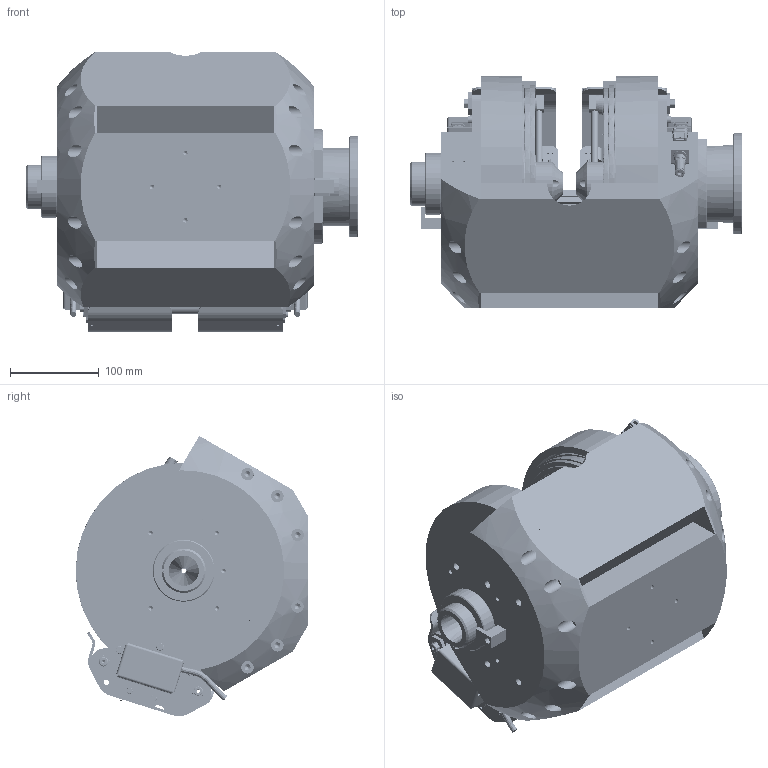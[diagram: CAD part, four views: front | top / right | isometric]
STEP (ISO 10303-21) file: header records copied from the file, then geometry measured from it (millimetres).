
FILE_DESCRIPTION (( 'STEP AP203' ), '1' );
FILE_NAME ('Z2 TUW 1004 000-1T MAGNET V2 opposé.STEP', '2015-10-13T11:58:53', ( 'heyman' ), ( '' ), 'SwSTEP 2.0', 'SolidWorks 2015', '' );
FILE_SCHEMA (( 'CONFIG_CONTROL_DESIGN' ));
Length unit declared in the file: millimetre
Products named in the file (76): boulon; ELMG 02 051 COIL v2 opposé 2_2-2; ELMG 02 053-SPACER; ECROU H_ECROU HM 10; Z2 TUW 1004 000-1T MAGNET V2 opposé; TUW 1004 015-CONTROL PART; ELMG 02 051-coil opposé 2_1; ELMG 02 060-Top Connection Pipe Assy; ELMG 02 065 capot LEFT; ELMG 02 060-Nipple_2; ELMG 02 072 CAPOT RIGHT; ELMG 02 051 COIL v2 opposé 2_3; 99-0402-10-02[7971]; z_Screw_FHc_SCREW FHc M3x5; z_Screw_H_SCREW H M10x20-20; ELMG 02 055-MANIFOLD HOLDER LEFT; Cosse Cu-10; ECROU H_ECROU HM 6; MANCHON 1; ELMG 02 069-Line Bar; ELMG 02 066 CURRENT BEAM RIGHT; 09-0403-00-02; serre cable; ELMG 02 061-Nut; boulon_2; TUW 1004 004-YOKE 2; ELMG 02 051 COIL v2 opposé 2_2; z_Screw_H_SCREW H M6x16-16; ELMG 02 051-coil opposé 2_4-2; ELMG 02 067 CURRENT BEAM LEFT; ELMG 02 051 COIL v2 opposé 2_1; z_Screw_FHc_SCREW FHc M4x12; ELMG 02 058- Copper Washer; ELMG 02 068 capot PETIT; White nylon cable tie clamp,M3 4.8mm RS 666-717; z_Screw_CHc_SCREW CHc M5x16; ELMG 02 064-MANIFOLD HOLDER RIGHT; ELMG 02 059-CONNECTION TERMINAL LEFT; Pièce2^serre cable; TUW 1004 010-POLE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
Assembly tree (185 placements, depth 4):
  Z2 TUW 1004 000-1T MAGNET V2 opposé
    TUW 1004 003-YOKE 1
    TUW 1004 005-YOKE 3
    TUW 1004 006-YOKE 4
    TUW 1004 007-YOKE 5_COUPE
    TUW 1004 008-YOKE 6
    TUW 1004 009-YOKE 7
    TUW 1004 010-POLE  x2
    TUW 1004 011-NUT  x2
    TUW 1004 014-CLAMP  x2
    TUW 1004 015-CONTROL PART  x2
    TUW 1004 042-POLE EXTENSION  x2
    TUW 1004 004-YOKE 2
    Z-ELMG 02 050-coil assy V2 opposé
      ELMG 02 051-coil opposé 2_4-2
        ELMG 02 051 COIL v2 opposé 2_4-2
        MANCHON 1  x2
        ELMG 02 052- 2 Insulating Sleeve  x2
      ELMG 02 051-coil opposé 2_3
        ELMG 02 051 COIL v2 opposé 2_3
        MANCHON 1  x2
        ELMG 02 052- 2 Insulating Sleeve  x2
      ELMG 02 051-coil opposé 2_2-2
        ELMG 02 051 COIL v2 opposé 2_2-2
        MANCHON 1  x2
        ELMG 02 052- 2 Insulating Sleeve  x2
      ELMG 02 051-coil opposé 2_1
        ELMG 02 051 COIL v2 opposé 2_1
        MANCHON 1  x2
        ELMG 02 052- 2 Insulating Sleeve  x4
      ELMG 02 051-coil opposé 2_1-2
        ELMG 02 051 COIL v2 opposé 2_1-2
        MANCHON 1  x2
        ELMG 02 052- 2 Insulating Sleeve  x2
      ELMG 02 051-coil opposé 2_2
        ELMG 02 051 COIL v2 opposé 2_2
        MANCHON 1  x2
        ELMG 02 052- 2 Insulating Sleeve  x2
      ELMG 02 051-coil opposé 2_3-2
        ELMG 02 051 COIL v2 opposé 2_3-2
        MANCHON 1  x2
        ELMG 02 052- 2 Insulating Sleeve  x2
      ELMG 02 051-coil opposé 2_4
        ELMG 02 051 COIL v2 opposé 2_4
        MANCHON 1  x2
        ELMG 02 052- 2 Insulating Sleeve  x4
      ELMG 02 053-SPACER
      ELMG 02 054-Connection Pipe
      ELMG 02 070 4 CONFIG-End Tapped Nipple_big  x2
      ELMG 02 070 4 CONFIG-End Tapped Nipple_18  x2
      ELMG 02 056 SCREW.  x4
      ELMG 02 055-MANIFOLD HOLDER LEFT
      boulon  x6
        ELMG 02 058- Copper Washer
        ECROU H_ECROU HM 6
        z_Screw_H_SCREW H M6x16-16
      boulon_2  x2
        ECROU H_ECROU HM 6
        z_Screw_H_SCREW H M6x12-12
      boulon_3  x2
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Bounding box: 375 x 262.7 x 316.57 mm (x, y, z)
Volume: 10248586.7 mm3; surface area: 3192937.4 mm2
Topology: 287 solids, 287 shells, 5891 faces, 13706 edges, 8515 vertices
Faces by surface type: plane 2404, cylinder 2083, cone 793, torus 421, bspline 164, sphere 26
Entity records: 164428 total; most frequent: CARTESIAN_POINT 88518, DIRECTION 14061, ORIENTED_EDGE 12982, EDGE_CURVE 6491, AXIS2_PLACEMENT_3D 5383, VERTEX_POINT 4120, LINE 3295, VECTOR 3295
